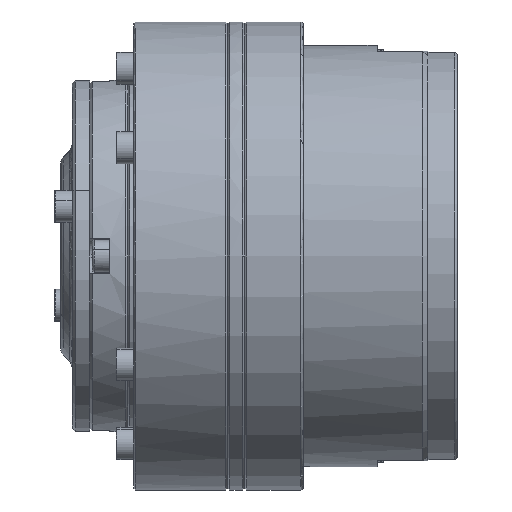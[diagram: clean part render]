
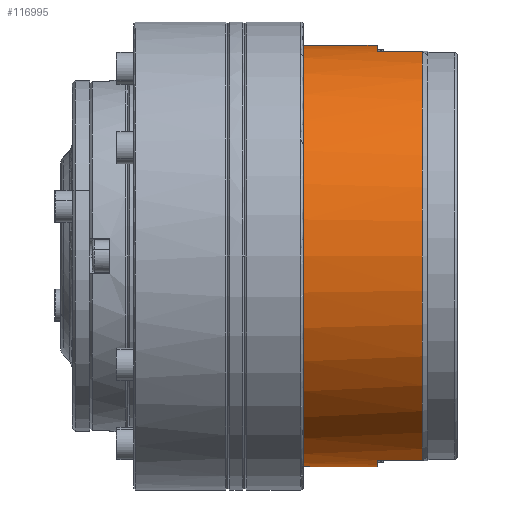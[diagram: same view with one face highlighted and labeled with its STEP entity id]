
A CAD part, left-side view. The second image highlights one B-rep face of the part: STEP entity #116995.
In plain terms, the highlighted cylindrical face has radius 36 mm (diameter 72 mm), a partial arc.
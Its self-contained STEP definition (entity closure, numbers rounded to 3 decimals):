
#304 = EDGE_CURVE ( 'NONE', #83777, #102538, #97367, .T. ) ;
#757 = EDGE_LOOP ( 'NONE', ( #40829, #46388, #130474, #85478, #90885, #11516, #19305, #85844 ) ) ;
#9941 = DIRECTION ( 'NONE',  ( 0., -1., 0. ) ) ;
#11365 = CARTESIAN_POINT ( 'NONE',  ( -8.743, 143.637, 34.922 ) ) ;
#11516 = ORIENTED_EDGE ( 'NONE', *, *, #60126, .T. ) ;
#12083 = CARTESIAN_POINT ( 'NONE',  ( -8.743, 8.7, 34.922 ) ) ;
#12843 = EDGE_CURVE ( 'NONE', #32558, #100245, #49579, .T. ) ;
#14110 = VERTEX_POINT ( 'NONE', #134969 ) ;
#14234 = CARTESIAN_POINT ( 'NONE',  ( 0., 1., 0. ) ) ;
#15472 = VECTOR ( 'NONE', #111312, 1000. ) ;
#19305 = ORIENTED_EDGE ( 'NONE', *, *, #137714, .T. ) ;
#22013 = CARTESIAN_POINT ( 'NONE',  ( 0., 8.7, 36. ) ) ;
#23699 = DIRECTION ( 'NONE',  ( 0., -1., 0. ) ) ;
#25573 = LINE ( 'NONE', #11365, #82785 ) ;
#25595 = CARTESIAN_POINT ( 'NONE',  ( 0., 143.637, 36. ) ) ;
#27054 = CARTESIAN_POINT ( 'NONE',  ( -8.743, 143.637, -34.922 ) ) ;
#27767 = CARTESIAN_POINT ( 'NONE',  ( -5.29, 8.7, -35.675 ) ) ;
#32416 = CARTESIAN_POINT ( 'NONE',  ( -3.532, 8.7, 35.892 ) ) ;
#32558 = VERTEX_POINT ( 'NONE', #22013 ) ;
#34864 = DIRECTION ( 'NONE',  ( 0., 1., 0. ) ) ;
#36281 = AXIS2_PLACEMENT_3D ( 'NONE', #87657, #23699, #108802 ) ;
#40829 = ORIENTED_EDGE ( 'NONE', *, *, #57567, .F. ) ;
#41855 = CARTESIAN_POINT ( 'NONE',  ( -8.743, 8.7, 34.922 ) ) ;
#45715 = DIRECTION ( 'NONE',  ( 1., 0., 0. ) ) ;
#46388 = ORIENTED_EDGE ( 'NONE', *, *, #304, .T. ) ;
#46621 = LINE ( 'NONE', #73184, #139103 ) ;
#49482 = CARTESIAN_POINT ( 'NONE',  ( -7.03, 8.7, -35.351 ) ) ;
#49551 = VECTOR ( 'NONE', #58074, 1000. ) ;
#49579 = B_SPLINE_CURVE_WITH_KNOTS ( 'NONE', 5,
 ( #63037, #96802, #32416, #107633, #64868, #41855 ),
 .UNSPECIFIED., .F., .F.,
 ( 6, 6 ),
 ( 0., 12.489 ),
 .UNSPECIFIED. ) ;
#52290 = DIRECTION ( 'NONE',  ( 0., 0., -1. ) ) ;
#52492 = CARTESIAN_POINT ( 'NONE',  ( 0., 21.3, -36. ) ) ;
#53276 = CARTESIAN_POINT ( 'NONE',  ( 0., 21.3, 36. ) ) ;
#57567 = EDGE_CURVE ( 'NONE', #83777, #32558, #84808, .T. ) ;
#58074 = DIRECTION ( 'NONE',  ( 0., -1., 0. ) ) ;
#60126 = EDGE_CURVE ( 'NONE', #90669, #120225, #87866, .T. ) ;
#63037 = CARTESIAN_POINT ( 'NONE',  ( 0., 8.7, 36. ) ) ;
#63208 = AXIS2_PLACEMENT_3D ( 'NONE', #14234, #34864, #45715 ) ;
#64868 = CARTESIAN_POINT ( 'NONE',  ( -7.03, 8.7, 35.351 ) ) ;
#65608 = FACE_OUTER_BOUND ( 'NONE', #757, .T. ) ;
#66326 = CARTESIAN_POINT ( 'NONE',  ( 0., 8.7, -36. ) ) ;
#69256 = LINE ( 'NONE', #27054, #15472 ) ;
#72257 = CARTESIAN_POINT ( 'NONE',  ( -8.743, 1., -34.922 ) ) ;
#73184 = CARTESIAN_POINT ( 'NONE',  ( 0., 143.637, -36. ) ) ;
#77354 = CYLINDRICAL_SURFACE ( 'NONE', #81056, 36. ) ;
#81056 = AXIS2_PLACEMENT_3D ( 'NONE', #138687, #9941, #52290 ) ;
#82785 = VECTOR ( 'NONE', #118964, 1000. ) ;
#83777 = VERTEX_POINT ( 'NONE', #53276 ) ;
#84808 = LINE ( 'NONE', #25595, #49551 ) ;
#85478 = ORIENTED_EDGE ( 'NONE', *, *, #108515, .F. ) ;
#85844 = ORIENTED_EDGE ( 'NONE', *, *, #12843, .F. ) ;
#87657 = CARTESIAN_POINT ( 'NONE',  ( 0., 21.3, 0. ) ) ;
#87866 = CIRCLE ( 'NONE', #63208, 36. ) ;
#90669 = VERTEX_POINT ( 'NONE', #72257 ) ;
#90885 = ORIENTED_EDGE ( 'NONE', *, *, #103984, .T. ) ;
#91287 = CARTESIAN_POINT ( 'NONE',  ( -8.743, 8.7, -34.922 ) ) ;
#96802 = CARTESIAN_POINT ( 'NONE',  ( -1.766, 8.7, 36. ) ) ;
#97367 = CIRCLE ( 'NONE', #36281, 36. ) ;
#100245 = VERTEX_POINT ( 'NONE', #12083 ) ;
#102538 = VERTEX_POINT ( 'NONE', #52492 ) ;
#102545 = CARTESIAN_POINT ( 'NONE',  ( -3.532, 8.7, -35.892 ) ) ;
#103034 = CARTESIAN_POINT ( 'NONE',  ( -1.766, 8.7, -36. ) ) ;
#103497 = CARTESIAN_POINT ( 'NONE',  ( 0., 8.7, -36. ) ) ;
#103984 = EDGE_CURVE ( 'NONE', #14110, #90669, #69256, .T. ) ;
#104782 = VERTEX_POINT ( 'NONE', #66326 ) ;
#107633 = CARTESIAN_POINT ( 'NONE',  ( -5.29, 8.7, 35.675 ) ) ;
#108515 = EDGE_CURVE ( 'NONE', #14110, #104782, #114579, .T. ) ;
#108802 = DIRECTION ( 'NONE',  ( 1., 0., 0. ) ) ;
#111312 = DIRECTION ( 'NONE',  ( 0., -1., 0. ) ) ;
#114579 = B_SPLINE_CURVE_WITH_KNOTS ( 'NONE', 5,
 ( #91287, #49482, #27767, #102545, #103034, #103497 ),
 .UNSPECIFIED., .F., .F.,
 ( 6, 6 ),
 ( 0., 12.489 ),
 .UNSPECIFIED. ) ;
#116995 = ADVANCED_FACE ( 'NONE', ( #65608 ), #77354, .T. ) ;
#118964 = DIRECTION ( 'NONE',  ( 0., 1., 0. ) ) ;
#120225 = VERTEX_POINT ( 'NONE', #124477 ) ;
#120271 = EDGE_CURVE ( 'NONE', #102538, #104782, #46621, .T. ) ;
#124477 = CARTESIAN_POINT ( 'NONE',  ( -8.743, 1., 34.922 ) ) ;
#128630 = DIRECTION ( 'NONE',  ( 0., -1., 0. ) ) ;
#130474 = ORIENTED_EDGE ( 'NONE', *, *, #120271, .T. ) ;
#134969 = CARTESIAN_POINT ( 'NONE',  ( -8.743, 8.7, -34.922 ) ) ;
#137714 = EDGE_CURVE ( 'NONE', #120225, #100245, #25573, .T. ) ;
#138687 = CARTESIAN_POINT ( 'NONE',  ( 0., 143.637, 0. ) ) ;
#139103 = VECTOR ( 'NONE', #128630, 1000. ) ;
